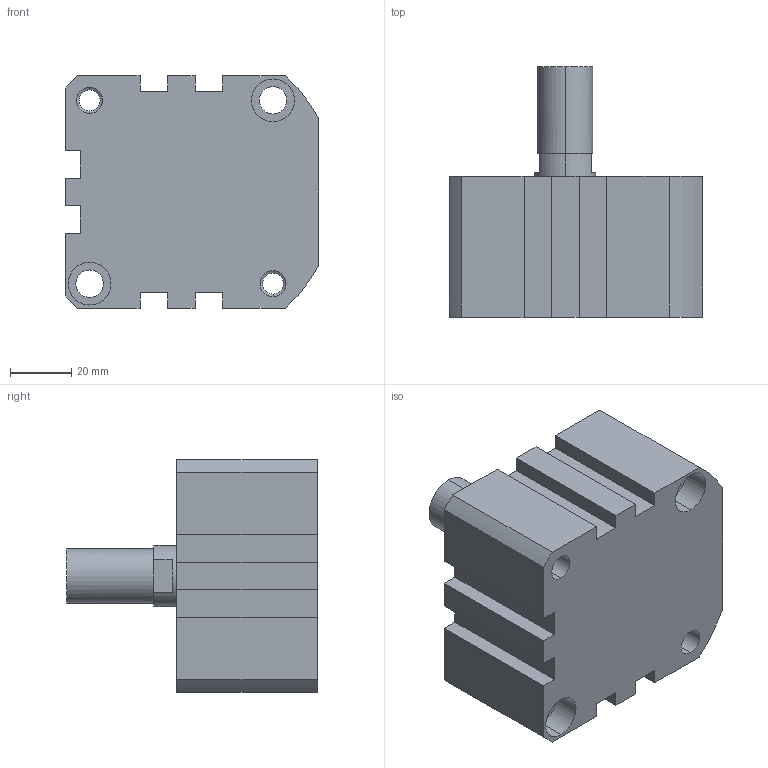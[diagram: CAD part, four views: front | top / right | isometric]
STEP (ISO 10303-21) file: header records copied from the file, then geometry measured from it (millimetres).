
FILE_DESCRIPTION (( 'STEP AP203' ), '1' );
FILE_NAME ('XC#M2-63-10.STEP', '2016-05-23T08:46:42', ( '' ), ( '' ), 'SwSTEP 2.0', 'SolidWorks 2014', '' );
FILE_SCHEMA (( 'CONFIG_CONTROL_DESIGN' ));
Length unit declared in the file: millimetre
Products named in the file (1): XC#M2-63-10
Bounding box: 83 x 82 x 76 mm (x, y, z)
Volume: 259036.3 mm3; surface area: 37607.4 mm2
Topology: 1 solids, 1 shells, 114 faces, 283 edges, 180 vertices
Faces by surface type: plane 50, cylinder 48, cone 16
Entity records: 3470 total; most frequent: DIRECTION 627, CARTESIAN_POINT 574, ORIENTED_EDGE 558, EDGE_CURVE 279, AXIS2_PLACEMENT_3D 233, VERTEX_POINT 180, VECTOR 161, LINE 161
